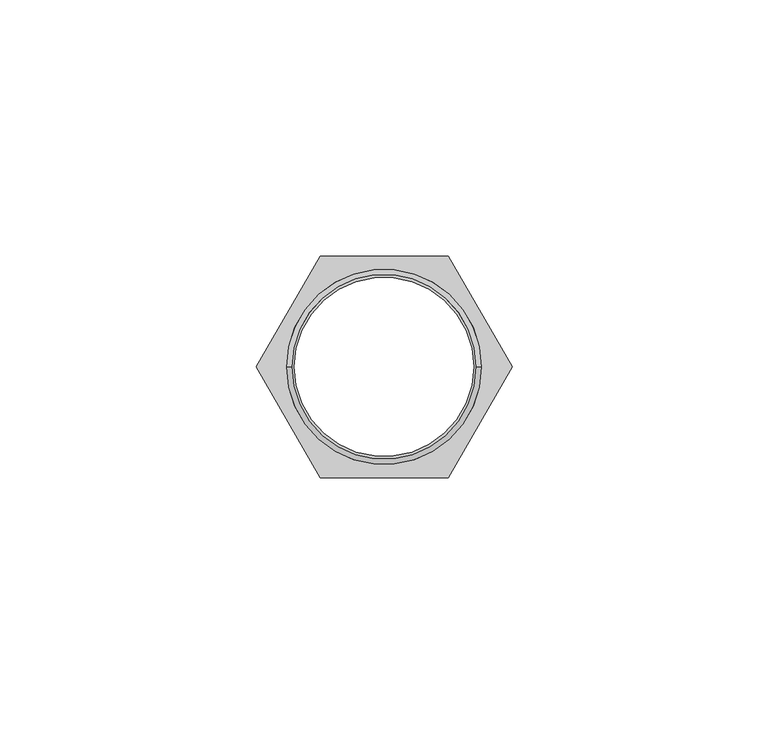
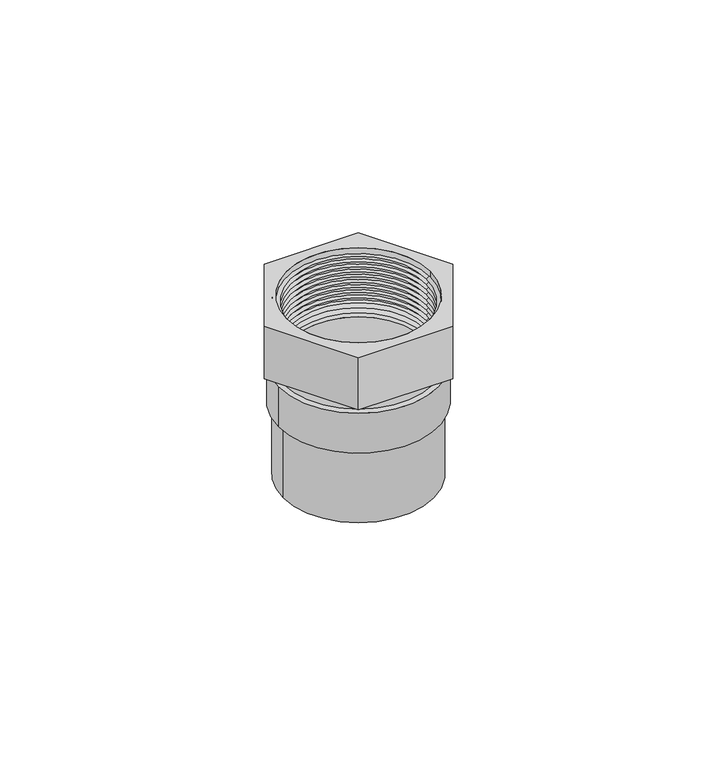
"""IFC4 building model written with IfcOpenShell, lengths in millimetres: valve geometry, Adaptador Hembra con Ins Metalico_Lubrizol_CPVC_FlowGuard_MX 32mm : Adaptador Hembra con Ins Metalico_Lubrizol_CPVC_FlowGuard_MX 32mm."""

from ifc_helpers import new_model, si_unit, point, frame, origin, origin_with_axes, origin_2d, place, context, project, spatial, polyline, circle_curve, trimmed, segment, composite_curve, outline, extrude, source, transform, mapped, element, save
from ifc_brep_helpers import plane_surface, cylinder_surface, revolved_surface, advanced_brep


def valve_689d34dc(model_context):
    return source(origin(), model_context, "Body", "SolidModel", [
        extrude(outline(composite_curve([segment(trimmed(circle_curve(origin_2d(), 21.1861044), [point((-21.1861044, 0.0))], [point((21.1861044, 0.0))], False, "CARTESIAN"), True, "CONTINUOUS"), segment(trimmed(circle_curve(origin_2d(), 21.1861044), [point((21.1861044, 0.0))], [point((-21.1861044, 0.0))], False, "CARTESIAN"), True, "CONTINUOUS")], self_intersect=False), holes=[composite_curve([segment(trimmed(circle_curve(origin_2d(), 17.5), [point((-17.5, 0.0))], [point((17.5, 0.0))], True, "CARTESIAN"), True, "CONTINUOUS"), segment(trimmed(circle_curve(origin_2d(), 17.5), [point((17.5, 0.0))], [point((-17.5, 0.0))], True, "CARTESIAN"), True, "CONTINUOUS")], self_intersect=False)]), frame((0.0, 0.0, 20.3549767), z_axis=(0.0, 0.0, 1.0), x_axis=(1.0, 0.0, 0.0)), (0.0, 0.0, 1.0), 11.2218024),
        extrude(outline(polyline([(-12.5, -21.6506351), (-25.0, 0.0), (-12.5, 21.6506351), (12.5, 21.6506351), (25.0, 0.0), (12.5, -21.6506351), (-12.5, -21.6506351)]), holes=[composite_curve([segment(trimmed(circle_curve(origin_2d(), 19.0319139), [point((-19.0319139, 0.0))], [point((19.0319139, 0.0))], True, "CARTESIAN"), True, "CONTINUOUS"), segment(trimmed(circle_curve(origin_2d(), 19.0319139), [point((19.0319139, 0.0))], [point((-19.0319139, 0.0))], True, "CARTESIAN"), True, "CONTINUOUS")], self_intersect=False)]), frame((0.0, 0.0, 35.1508284), z_axis=(0.0, 0.0, 1.0), x_axis=(1.0, 0.0, 0.0)), (0.0, 0.0, 1.0), 14.7241716),
        advanced_brep(
        [(19.9790565, 0.0, 49.875), (-19.9790565, 0.0, 49.875), (-19.1282523, 0.0, 49.875), (19.1282523, 0.0, 49.875), (19.9790565, 0.0, 31.5767791), (-19.9790565, 0.0, 31.5767791), (19.0319139, 0.0, 31.5767791), (-19.0319139, 0.0, 31.5767791), (18.0645396, 0.0, 32.2541419), (-18.0645396, 0.0, 32.2541419), (19.1321889, 0.0, 33.0017179), (-19.1321889, 0.0, 33.0017179), (18.0645396, 0.0, 33.749294), (-18.0645396, 0.0, 33.749294), (19.0653389, 0.0, 34.4500612), (-19.0653389, 0.0, 34.4500612), (18.0645396, 0.0, 35.1508284), (-18.0645396, 0.0, 35.1508284), (19.0653389, 0.0, 35.8515956), (-19.0653389, 0.0, 35.8515956), (18.0645396, 0.0, 36.5523628), (-18.0645396, 0.0, 36.5523628), (19.0987639, 0.0, 37.2765344), (-19.0987639, 0.0, 37.2765344), (18.0645396, 0.0, 38.000706), (-18.0645396, 0.0, 38.000706), (19.0987639, 0.0, 38.7248777), (-19.0987639, 0.0, 38.7248777), (18.0645396, 0.0, 39.4490493), (-18.0645396, 0.0, 39.4490493), (19.0987639, 0.0, 40.1732209), (-19.0987639, 0.0, 40.1732209), (18.0645396, 0.0, 40.8973925), (-18.0645396, 0.0, 40.8973925), (19.0987639, 0.0, 41.6215641), (-19.0987639, 0.0, 41.6215641), (18.0645396, 0.0, 42.3457358), (-18.0645396, 0.0, 42.3457358), (19.0987639, 0.0, 43.0699074), (-19.0987639, 0.0, 43.0699074), (18.0645396, 0.0, 43.794079), (-18.0645396, 0.0, 43.794079), (19.0987639, 0.0, 44.5182506), (-19.0987639, 0.0, 44.5182506), (18.0645396, 0.0, 45.2424223), (-18.0645396, 0.0, 45.2424223), (19.0987639, 0.0, 45.9665939), (-19.0987639, 0.0, 45.9665939), (18.0645396, 0.0, 46.6907655), (-18.0645396, 0.0, 46.6907655), (19.0987639, 0.0, 47.4149371), (-19.0987639, 0.0, 47.4149371), (18.0645396, 0.0, 48.1391088), (-18.0645396, 0.0, 48.1391088), (19.1282523, 0.0, 48.8839284), (-19.1282523, 0.0, 48.8839284)],
        [
            (0, 1, circle_curve(frame((0.0, 0.0, 49.875), z_axis=(0.0, 0.0, 1.0), x_axis=(-1.0, 0.0, 0.0)), 19.9790565)),
            (1, 2),
            (2, 3, circle_curve(frame((0.0, 0.0, 49.875), z_axis=(0.0, 0.0, -1.0), x_axis=(-1.0, 0.0, 0.0)), 19.1282523)),
            (3, 0),
            (1, 0, circle_curve(frame((0.0, 0.0, 49.875), z_axis=(0.0, 0.0, 1.0), x_axis=(-1.0, 0.0, 0.0)), 19.9790565)),
            (3, 2, circle_curve(frame((0.0, 0.0, 49.875), z_axis=(0.0, 0.0, -1.0), x_axis=(-1.0, 0.0, 0.0)), 19.1282523)),
            (4, 5, circle_curve(frame((0.0, 0.0, 31.5767791), z_axis=(0.0, 0.0, 1.0), x_axis=(-1.0, 0.0, 0.0)), 19.9790565)),
            (5, 1),
            (0, 4),
            (5, 4, circle_curve(frame((0.0, 0.0, 31.5767791), z_axis=(0.0, 0.0, 1.0), x_axis=(-1.0, 0.0, 0.0)), 19.9790565)),
            (6, 7, circle_curve(frame((0.0, 0.0, 31.5767791), z_axis=(0.0, 0.0, 1.0), x_axis=(-1.0, 0.0, 0.0)), 19.0319139)),
            (7, 5),
            (4, 6),
            (7, 6, circle_curve(frame((0.0, 0.0, 31.5767791), z_axis=(0.0, 0.0, 1.0), x_axis=(-1.0, 0.0, 0.0)), 19.0319139)),
            (8, 9, circle_curve(frame((0.0, 0.0, 32.2541419), z_axis=(0.0, 0.0, 1.0), x_axis=(-1.0, 0.0, 0.0)), 18.0645396)),
            (9, 7),
            (6, 8),
            (9, 8, circle_curve(frame((0.0, 0.0, 32.2541419), z_axis=(0.0, 0.0, 1.0), x_axis=(-1.0, 0.0, 0.0)), 18.0645396)),
            (10, 11, circle_curve(frame((0.0, 0.0, 33.0017179), z_axis=(0.0, 0.0, 1.0), x_axis=(-1.0, 0.0, 0.0)), 19.1321889)),
            (11, 9),
            (8, 10),
            (11, 10, circle_curve(frame((0.0, 0.0, 33.0017179), z_axis=(0.0, 0.0, 1.0), x_axis=(-1.0, 0.0, 0.0)), 19.1321889)),
            (12, 13, circle_curve(frame((0.0, 0.0, 33.749294), z_axis=(0.0, 0.0, 1.0), x_axis=(-1.0, 0.0, 0.0)), 18.0645396)),
            (13, 11),
            (10, 12),
            (13, 12, circle_curve(frame((0.0, 0.0, 33.749294), z_axis=(0.0, 0.0, 1.0), x_axis=(-1.0, 0.0, 0.0)), 18.0645396)),
            (14, 15, circle_curve(frame((0.0, 0.0, 34.4500612), z_axis=(0.0, 0.0, 1.0), x_axis=(-1.0, 0.0, 0.0)), 19.0653389)),
            (15, 13),
            (12, 14),
            (15, 14, circle_curve(frame((0.0, 0.0, 34.4500612), z_axis=(0.0, 0.0, 1.0), x_axis=(-1.0, 0.0, 0.0)), 19.0653389)),
            (16, 17, circle_curve(frame((0.0, 0.0, 35.1508284), z_axis=(0.0, 0.0, 1.0), x_axis=(-1.0, 0.0, 0.0)), 18.0645396)),
            (17, 15),
            (14, 16),
            (17, 16, circle_curve(frame((0.0, 0.0, 35.1508284), z_axis=(0.0, 0.0, 1.0), x_axis=(-1.0, 0.0, 0.0)), 18.0645396)),
            (18, 19, circle_curve(frame((0.0, 0.0, 35.8515956), z_axis=(0.0, 0.0, 1.0), x_axis=(-1.0, 0.0, 0.0)), 19.0653389)),
            (19, 17),
            (16, 18),
            (19, 18, circle_curve(frame((0.0, 0.0, 35.8515956), z_axis=(0.0, 0.0, 1.0), x_axis=(-1.0, 0.0, 0.0)), 19.0653389)),
            (20, 21, circle_curve(frame((0.0, 0.0, 36.5523628), z_axis=(0.0, 0.0, 1.0), x_axis=(-1.0, 0.0, 0.0)), 18.0645396)),
            (21, 19),
            (18, 20),
            (21, 20, circle_curve(frame((0.0, 0.0, 36.5523628), z_axis=(0.0, 0.0, 1.0), x_axis=(-1.0, 0.0, 0.0)), 18.0645396)),
            (22, 23, circle_curve(frame((0.0, 0.0, 37.2765344), z_axis=(0.0, 0.0, 1.0), x_axis=(-1.0, 0.0, 0.0)), 19.0987639)),
            (23, 21),
            (20, 22),
            (23, 22, circle_curve(frame((0.0, 0.0, 37.2765344), z_axis=(0.0, 0.0, 1.0), x_axis=(-1.0, 0.0, 0.0)), 19.0987639)),
            (24, 25, circle_curve(frame((0.0, 0.0, 38.000706), z_axis=(0.0, 0.0, 1.0), x_axis=(-1.0, 0.0, 0.0)), 18.0645396)),
            (25, 23),
            (22, 24),
            (25, 24, circle_curve(frame((0.0, 0.0, 38.000706), z_axis=(0.0, 0.0, 1.0), x_axis=(-1.0, 0.0, 0.0)), 18.0645396)),
            (26, 27, circle_curve(frame((0.0, 0.0, 38.7248777), z_axis=(0.0, 0.0, 1.0), x_axis=(-1.0, 0.0, 0.0)), 19.0987639)),
            (27, 25),
            (24, 26),
            (27, 26, circle_curve(frame((0.0, 0.0, 38.7248777), z_axis=(0.0, 0.0, 1.0), x_axis=(-1.0, 0.0, 0.0)), 19.0987639)),
            (28, 29, circle_curve(frame((0.0, 0.0, 39.4490493), z_axis=(0.0, 0.0, 1.0), x_axis=(-1.0, 0.0, 0.0)), 18.0645396)),
            (29, 27),
            (26, 28),
            (29, 28, circle_curve(frame((0.0, 0.0, 39.4490493), z_axis=(0.0, 0.0, 1.0), x_axis=(-1.0, 0.0, 0.0)), 18.0645396)),
            (30, 31, circle_curve(frame((0.0, 0.0, 40.1732209), z_axis=(0.0, 0.0, 1.0), x_axis=(-1.0, 0.0, 0.0)), 19.0987639)),
            (31, 29),
            (28, 30),
            (31, 30, circle_curve(frame((0.0, 0.0, 40.1732209), z_axis=(0.0, 0.0, 1.0), x_axis=(-1.0, 0.0, 0.0)), 19.0987639)),
            (32, 33, circle_curve(frame((0.0, 0.0, 40.8973925), z_axis=(0.0, 0.0, 1.0), x_axis=(-1.0, 0.0, 0.0)), 18.0645396)),
            (33, 31),
            (30, 32),
            (33, 32, circle_curve(frame((0.0, 0.0, 40.8973925), z_axis=(0.0, 0.0, 1.0), x_axis=(-1.0, 0.0, 0.0)), 18.0645396)),
            (34, 35, circle_curve(frame((0.0, 0.0, 41.6215641), z_axis=(0.0, 0.0, 1.0), x_axis=(-1.0, 0.0, 0.0)), 19.0987639)),
            (35, 33),
            (32, 34),
            (35, 34, circle_curve(frame((0.0, 0.0, 41.6215641), z_axis=(0.0, 0.0, 1.0), x_axis=(-1.0, 0.0, 0.0)), 19.0987639)),
            (36, 37, circle_curve(frame((0.0, 0.0, 42.3457358), z_axis=(0.0, 0.0, 1.0), x_axis=(-1.0, 0.0, 0.0)), 18.0645396)),
            (37, 35),
            (34, 36),
            (37, 36, circle_curve(frame((0.0, 0.0, 42.3457358), z_axis=(0.0, 0.0, 1.0), x_axis=(-1.0, 0.0, 0.0)), 18.0645396)),
            (38, 39, circle_curve(frame((0.0, 0.0, 43.0699074), z_axis=(0.0, 0.0, 1.0), x_axis=(-1.0, 0.0, 0.0)), 19.0987639)),
            (39, 37),
            (36, 38),
            (39, 38, circle_curve(frame((0.0, 0.0, 43.0699074), z_axis=(0.0, 0.0, 1.0), x_axis=(-1.0, 0.0, 0.0)), 19.0987639)),
            (40, 41, circle_curve(frame((0.0, 0.0, 43.794079), z_axis=(0.0, 0.0, 1.0), x_axis=(-1.0, 0.0, 0.0)), 18.0645396)),
            (41, 39),
            (38, 40),
            (41, 40, circle_curve(frame((0.0, 0.0, 43.794079), z_axis=(0.0, 0.0, 1.0), x_axis=(-1.0, 0.0, 0.0)), 18.0645396)),
            (42, 43, circle_curve(frame((0.0, 0.0, 44.5182506), z_axis=(0.0, 0.0, 1.0), x_axis=(-1.0, 0.0, 0.0)), 19.0987639)),
            (43, 41),
            (40, 42),
            (43, 42, circle_curve(frame((0.0, 0.0, 44.5182506), z_axis=(0.0, 0.0, 1.0), x_axis=(-1.0, 0.0, 0.0)), 19.0987639)),
            (44, 45, circle_curve(frame((0.0, 0.0, 45.2424223), z_axis=(0.0, 0.0, 1.0), x_axis=(-1.0, 0.0, 0.0)), 18.0645396)),
            (45, 43),
            (42, 44),
            (45, 44, circle_curve(frame((0.0, 0.0, 45.2424223), z_axis=(0.0, 0.0, 1.0), x_axis=(-1.0, 0.0, 0.0)), 18.0645396)),
            (46, 47, circle_curve(frame((0.0, 0.0, 45.9665939), z_axis=(0.0, 0.0, 1.0), x_axis=(-1.0, 0.0, 0.0)), 19.0987639)),
            (47, 45),
            (44, 46),
            (47, 46, circle_curve(frame((0.0, 0.0, 45.9665939), z_axis=(0.0, 0.0, 1.0), x_axis=(-1.0, 0.0, 0.0)), 19.0987639)),
            (48, 49, circle_curve(frame((0.0, 0.0, 46.6907655), z_axis=(0.0, 0.0, 1.0), x_axis=(-1.0, 0.0, 0.0)), 18.0645396)),
            (49, 47),
            (46, 48),
            (49, 48, circle_curve(frame((0.0, 0.0, 46.6907655), z_axis=(0.0, 0.0, 1.0), x_axis=(-1.0, 0.0, 0.0)), 18.0645396)),
            (50, 51, circle_curve(frame((0.0, 0.0, 47.4149371), z_axis=(0.0, 0.0, 1.0), x_axis=(-1.0, 0.0, 0.0)), 19.0987639)),
            (51, 49),
            (48, 50),
            (51, 50, circle_curve(frame((0.0, 0.0, 47.4149371), z_axis=(0.0, 0.0, 1.0), x_axis=(-1.0, 0.0, 0.0)), 19.0987639)),
            (52, 53, circle_curve(frame((0.0, 0.0, 48.1391088), z_axis=(0.0, 0.0, 1.0), x_axis=(-1.0, 0.0, 0.0)), 18.0645396)),
            (53, 51),
            (50, 52),
            (53, 52, circle_curve(frame((0.0, 0.0, 48.1391088), z_axis=(0.0, 0.0, 1.0), x_axis=(-1.0, 0.0, 0.0)), 18.0645396)),
            (54, 55, circle_curve(frame((0.0, 0.0, 48.8839284), z_axis=(0.0, 0.0, 1.0), x_axis=(-1.0, 0.0, 0.0)), 19.1282523)),
            (55, 53),
            (52, 54),
            (55, 54, circle_curve(frame((0.0, 0.0, 48.8839284), z_axis=(0.0, 0.0, 1.0), x_axis=(-1.0, 0.0, 0.0)), 19.1282523)),
            (2, 55),
            (54, 3),
        ],
        [
            plane_surface(frame((0.0, 0.0, 49.875), z_axis=(0.0, 0.0, 1.0), x_axis=(-1.0, 0.0, 0.0))),
            cylinder_surface(frame((0.0, 0.0, 44.6339883), z_axis=(0.0, 0.0, -1.0), x_axis=(-1.0, 0.0, 0.0)), 19.9790565),
            plane_surface(frame((0.0, 0.0, 31.5767791), z_axis=(0.0, 0.0, -1.0), x_axis=(-1.0, 0.0, 0.0))),
            revolved_surface(polyline([(-19.0319139, 0.0, 31.5767791), (-18.0645396, 0.0, 32.2541419)]), (0.0, 0.0, 44.6339883), (0.0, 0.0, -1.0)),
            revolved_surface(polyline([(-18.0645396, 0.0, 32.2541419), (-19.1321889, 0.0, 33.0017179)]), (0.0, 0.0, 44.6339883), (0.0, 0.0, -1.0)),
            revolved_surface(polyline([(-19.1321889, 0.0, 33.0017179), (-18.0645396, 0.0, 33.749294)]), (0.0, 0.0, 44.6339883), (0.0, 0.0, -1.0)),
            revolved_surface(polyline([(-18.0645396, 0.0, 33.749294), (-19.0653389, 0.0, 34.4500612)]), (0.0, 0.0, 44.6339883), (0.0, 0.0, -1.0)),
            revolved_surface(polyline([(-19.0653389, 0.0, 34.4500612), (-18.0645396, 0.0, 35.1508284)]), (0.0, 0.0, 44.6339883), (0.0, 0.0, -1.0)),
            revolved_surface(polyline([(-18.0645396, 0.0, 35.1508284), (-19.0653389, 0.0, 35.8515956)]), (0.0, 0.0, 44.6339883), (0.0, 0.0, -1.0)),
            revolved_surface(polyline([(-19.0653389, 0.0, 35.8515956), (-18.0645396, 0.0, 36.5523628)]), (0.0, 0.0, 44.6339883), (0.0, 0.0, -1.0)),
            revolved_surface(polyline([(-18.0645396, 0.0, 36.5523628), (-19.0987639, 0.0, 37.2765344)]), (0.0, 0.0, 44.6339883), (0.0, 0.0, -1.0)),
            revolved_surface(polyline([(-19.0987639, 0.0, 37.2765344), (-18.0645396, 0.0, 38.000706)]), (0.0, 0.0, 44.6339883), (0.0, 0.0, -1.0)),
            revolved_surface(polyline([(-18.0645396, 0.0, 38.000706), (-19.0987639, 0.0, 38.7248777)]), (0.0, 0.0, 44.6339883), (0.0, 0.0, -1.0)),
            revolved_surface(polyline([(-19.0987639, 0.0, 38.7248777), (-18.0645396, 0.0, 39.4490493)]), (0.0, 0.0, 44.6339883), (0.0, 0.0, -1.0)),
            revolved_surface(polyline([(-18.0645396, 0.0, 39.4490493), (-19.0987639, 0.0, 40.1732209)]), (0.0, 0.0, 44.6339883), (0.0, 0.0, -1.0)),
            revolved_surface(polyline([(-19.0987639, 0.0, 40.1732209), (-18.0645396, 0.0, 40.8973925)]), (0.0, 0.0, 44.6339883), (0.0, 0.0, -1.0)),
            revolved_surface(polyline([(-18.0645396, 0.0, 40.8973925), (-19.0987639, 0.0, 41.6215641)]), (0.0, 0.0, 44.6339883), (0.0, 0.0, -1.0)),
            revolved_surface(polyline([(-19.0987639, 0.0, 41.6215641), (-18.0645396, 0.0, 42.3457358)]), (0.0, 0.0, 44.6339883), (0.0, 0.0, -1.0)),
            revolved_surface(polyline([(-18.0645396, 0.0, 42.3457358), (-19.0987639, 0.0, 43.0699074)]), (0.0, 0.0, 44.6339883), (0.0, 0.0, -1.0)),
            revolved_surface(polyline([(-19.0987639, 0.0, 43.0699074), (-18.0645396, 0.0, 43.794079)]), (0.0, 0.0, 44.6339883), (0.0, 0.0, -1.0)),
            revolved_surface(polyline([(-18.0645396, 0.0, 43.794079), (-19.0987639, 0.0, 44.5182506)]), (0.0, 0.0, 44.6339883), (0.0, 0.0, -1.0)),
            revolved_surface(polyline([(-19.0987639, 0.0, 44.5182506), (-18.0645396, 0.0, 45.2424223)]), (0.0, 0.0, 44.6339883), (0.0, 0.0, -1.0)),
            revolved_surface(polyline([(-18.0645396, 0.0, 45.2424223), (-19.0987639, 0.0, 45.9665939)]), (0.0, 0.0, 44.6339883), (0.0, 0.0, -1.0)),
            revolved_surface(polyline([(-19.0987639, 0.0, 45.9665939), (-18.0645396, 0.0, 46.6907655)]), (0.0, 0.0, 44.6339883), (0.0, 0.0, -1.0)),
            revolved_surface(polyline([(-18.0645396, 0.0, 46.6907655), (-19.0987639, 0.0, 47.4149371)]), (0.0, 0.0, 44.6339883), (0.0, 0.0, -1.0)),
            revolved_surface(polyline([(-19.0987639, 0.0, 47.4149371), (-18.0645396, 0.0, 48.1391088)]), (0.0, 0.0, 44.6339883), (0.0, 0.0, -1.0)),
            revolved_surface(polyline([(-18.0645396, 0.0, 48.1391088), (-19.1282523, 0.0, 48.8839284)]), (0.0, 0.0, 44.6339883), (0.0, 0.0, -1.0)),
            revolved_surface(polyline([(-19.1282523, 0.0, 48.8839284), (-19.1282523, 0.0, 49.875)]), (0.0, 0.0, 44.6339883), (0.0, 0.0, -1.0)),
        ],
        [
            (0, [[1, 2, 3, 4]]),
            (0, [[5, -4, 6, -2]]),
            (1, [[7, 8, -1, 9]]),
            (1, [[10, -9, -5, -8]]),
            (2, [[11, 12, -7, 13]]),
            (2, [[14, -13, -10, -12]]),
            (3, [[15, 16, -11, 17]]),
            (3, [[18, -17, -14, -16]]),
            (4, [[19, 20, -15, 21]]),
            (4, [[22, -21, -18, -20]]),
            (5, [[23, 24, -19, 25]]),
            (5, [[26, -25, -22, -24]]),
            (6, [[27, 28, -23, 29]]),
            (6, [[30, -29, -26, -28]]),
            (7, [[31, 32, -27, 33]]),
            (7, [[34, -33, -30, -32]]),
            (8, [[35, 36, -31, 37]]),
            (8, [[38, -37, -34, -36]]),
            (9, [[39, 40, -35, 41]]),
            (9, [[42, -41, -38, -40]]),
            (10, [[43, 44, -39, 45]]),
            (10, [[46, -45, -42, -44]]),
            (11, [[47, 48, -43, 49]]),
            (11, [[50, -49, -46, -48]]),
            (12, [[51, 52, -47, 53]]),
            (12, [[54, -53, -50, -52]]),
            (13, [[55, 56, -51, 57]]),
            (13, [[58, -57, -54, -56]]),
            (14, [[59, 60, -55, 61]]),
            (14, [[62, -61, -58, -60]]),
            (15, [[63, 64, -59, 65]]),
            (15, [[66, -65, -62, -64]]),
            (16, [[67, 68, -63, 69]]),
            (16, [[70, -69, -66, -68]]),
            (17, [[71, 72, -67, 73]]),
            (17, [[74, -73, -70, -72]]),
            (18, [[75, 76, -71, 77]]),
            (18, [[78, -77, -74, -76]]),
            (19, [[79, 80, -75, 81]]),
            (19, [[82, -81, -78, -80]]),
            (20, [[83, 84, -79, 85]]),
            (20, [[86, -85, -82, -84]]),
            (21, [[87, 88, -83, 89]]),
            (21, [[90, -89, -86, -88]]),
            (22, [[91, 92, -87, 93]]),
            (22, [[94, -93, -90, -92]]),
            (23, [[95, 96, -91, 97]]),
            (23, [[98, -97, -94, -96]]),
            (24, [[99, 100, -95, 101]]),
            (24, [[102, -101, -98, -100]]),
            (25, [[103, 104, -99, 105]]),
            (25, [[106, -105, -102, -104]]),
            (26, [[107, 108, -103, 109]]),
            (26, [[110, -109, -106, -108]]),
            (27, [[-3, 111, -107, 112]]),
            (27, [[-6, -112, -110, -111]]),
        ],
    ),
        extrude(outline(composite_curve([segment(trimmed(circle_curve(origin_2d(), 20.0), [point((-20.0, 0.0))], [point((20.0, 0.0))], False, "CARTESIAN"), True, "CONTINUOUS"), segment(trimmed(circle_curve(origin_2d(), 20.0), [point((20.0, 0.0))], [point((-20.0, 0.0))], False, "CARTESIAN"), True, "CONTINUOUS")], self_intersect=False), holes=[composite_curve([segment(trimmed(circle_curve(origin_2d(), 17.5), [point((-17.5, 0.0))], [point((17.5, 0.0))], True, "CARTESIAN"), True, "CONTINUOUS"), segment(trimmed(circle_curve(origin_2d(), 17.5), [point((17.5, 0.0))], [point((-17.5, 0.0))], True, "CARTESIAN"), True, "CONTINUOUS")], self_intersect=False)]), origin_with_axes(), (0.0, 0.0, 1.0), 20.3549767),
    ])


if __name__ == "__main__":
    model = new_model("IFC4")
    model_context = context("Model", 3, world=origin())
    ifc_project = project(units=[si_unit("LENGTHUNIT", "METRE", prefix="MILLI")], contexts=[model_context])
    site = spatial("IfcSite", under=ifc_project)
    building = spatial("IfcBuilding", under=site)
    placement = place(None, origin())
    valve_shape = valve_689d34dc(model_context)
    element("IfcValve", 1, ObjectType="Adaptador Hembra con Ins Metalico_Lubrizol_CPVC_FlowGuard_MX 32mm : Adaptador Hembra con Ins Metalico_Lubrizol_CPVC_FlowGuard_MX 32mm", at=placement, inside=building, context=model_context, shape_type="MappedRepresentation", body=[
        mapped(valve_shape, transform((0.0, 0.0, 0.0), x_axis=(1.0, 0.0, 0.0), y_axis=(0.0, 1.0, 0.0), z_axis=(0.0, 0.0, 1.0))),
    ])
    save(model, "model.ifc")
